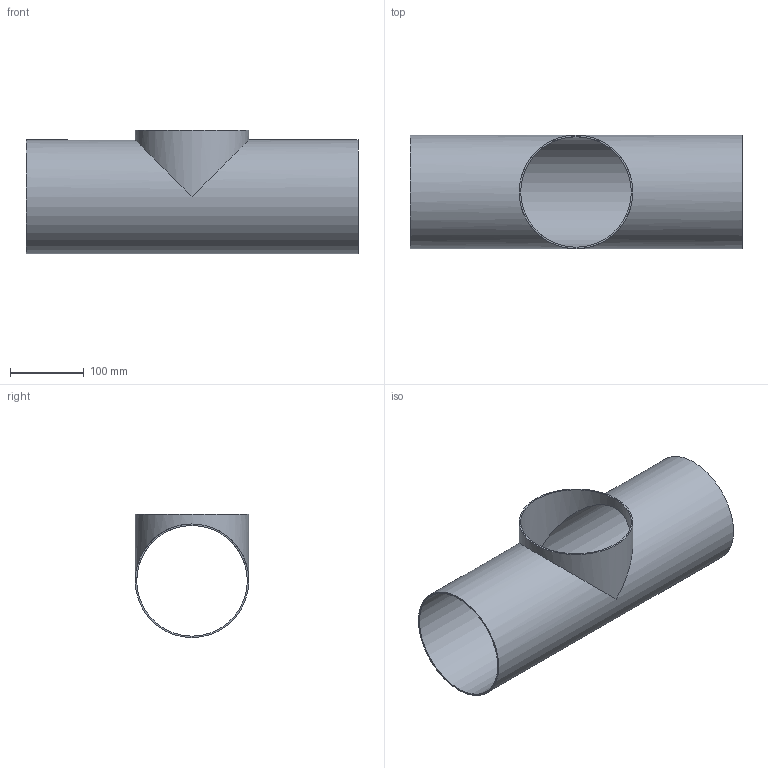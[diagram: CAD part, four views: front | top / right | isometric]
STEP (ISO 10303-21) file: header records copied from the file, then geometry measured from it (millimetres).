
FILE_DESCRIPTION(('FreeCAD Model'),'2;1');
FILE_NAME( '/home/martin/Documents/proyect/accesorios/stp/te_short_DN-150.step', '2018-01-07T08:12:31',('Author'),(''), 'Open CASCADE STEP processor 6.8','FreeCAD','Unknown');
FILE_SCHEMA(('AUTOMOTIVE_DESIGN_CC2 { 1 2 10303 214 -1 1 5 4 }'));
Length unit declared in the file: millimetre
Products named in the file (1): te_short_DN-150
Bounding box: 450 x 154 x 167 mm (x, y, z)
Volume: 423302.5 mm3; surface area: 426157 mm2
Topology: 1 solids, 1 shells, 7 faces, 16 edges, 12 vertices
Faces by surface type: cylinder 4, plane 3
Full cylindrical faces by diameter (mm): 150 x2, 154 x2
Entity records: 539 total; most frequent: CARTESIAN_POINT 180, DIRECTION 64, ORIENTED_EDGE 32, PCURVE 32, DEFINITIONAL_REPRESENTATION 32, AXIS2_PLACEMENT_3D 20, LINE 18, VECTOR 18
